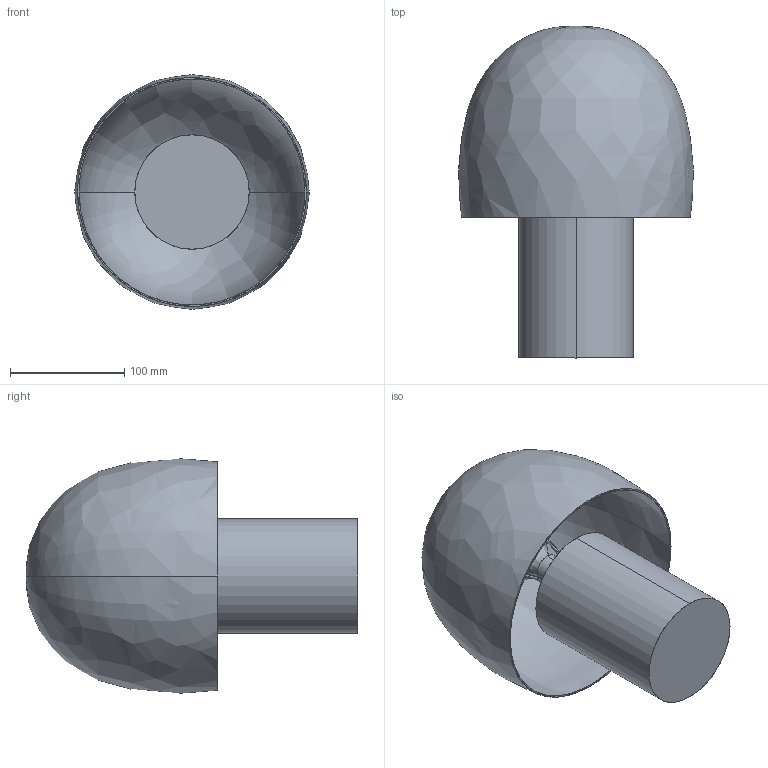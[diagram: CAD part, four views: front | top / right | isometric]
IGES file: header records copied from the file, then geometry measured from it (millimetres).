
Start section: SolidWorks IGES file using analytic representation for surfaces
Global section: file name: F:\燠隴矨\3D\2024-4堎\Mushroom Umbrella Table Lamp-D12xH29CM.IGS; native system: SolidWorks 2022; preprocessor: SolidWorks 2022; author: MyPC; date: 240418.175825; units: millimetre
Bounding box: 205.22 x 290.19 x 205.16 mm (x, y, z)
Surface area: 284471.3 mm2 (no closed solid volume)
Topology: 0 solids, 0 shells, 104 faces, 1424 edges, 1411 vertices
Faces by surface type: bspline 58, revolution 46
